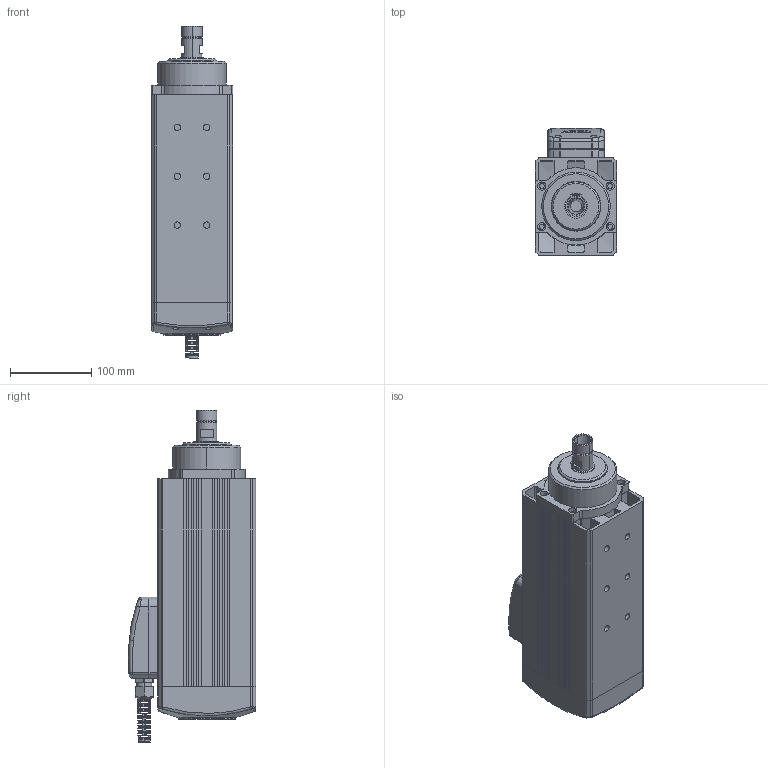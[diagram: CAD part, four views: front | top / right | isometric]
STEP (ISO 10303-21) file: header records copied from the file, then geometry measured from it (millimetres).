
FILE_DESCRIPTION (( 'STEP AP203' ), '1' );
FILE_NAME ('ARFM.3K-L Montaj ER20.STEP', '2019-11-25T14:14:02', ( '' ), ( '' ), 'SwSTEP 2.0', 'SolidWorks 2014', '' );
FILE_SCHEMA (( 'CONFIG_CONTROL_DESIGN' ));
Length unit declared in the file: millimetre
Products named in the file (14): Yeni 3K Tas Kapak K齭a; Etiket; rekor1; 471-25 Sekman_98541A440; klemens kutusu montaj tabansýz; Klemens Kutusu  alt tabansýz; Arfm.3Y Ön Toz Kapaðý 52 lik; rekor2; ARFM.3K-L Montaj ER20; 3K Yeni 琄 Kapak; ARFM.3K-L Gövdesi; Klemens Kutusu Kapaðý Kademeli; Arfm.3Y Yeni Rotor Mili ER20; rekor3
Assembly tree (13 placements, depth 3):
  ARFM.3K-L Montaj ER20
    3K Yeni 琄 Kapak
    Yeni 3K Tas Kapak K齭a
    klemens kutusu montaj tabansýz
      Klemens Kutusu  alt tabansýz
      Klemens Kutusu Kapaðý Kademeli
      rekor1
      rekor2
      rekor3
    ARFM.3K-L Gövdesi
    Etiket
    Arfm.3Y Ön Toz Kapaðý 52 lik
    Arfm.3Y Yeni Rotor Mili ER20
    471-25 Sekman_98541A440
Bounding box: 100 x 156.24 x 407.6 mm (x, y, z)
Volume: 2925917.6 mm3; surface area: 403537.6 mm2
Topology: 12 solids, 12 shells, 1404 faces, 3840 edges, 2464 vertices
Faces by surface type: plane 698, cylinder 416, cone 158, bspline 106, sphere 18, torus 8
Entity records: 55401 total; most frequent: CARTESIAN_POINT 19407, ORIENTED_EDGE 7664, DIRECTION 6587, EDGE_CURVE 3832, VERTEX_POINT 2464, AXIS2_PLACEMENT_3D 2316, LINE 1955, VECTOR 1955
